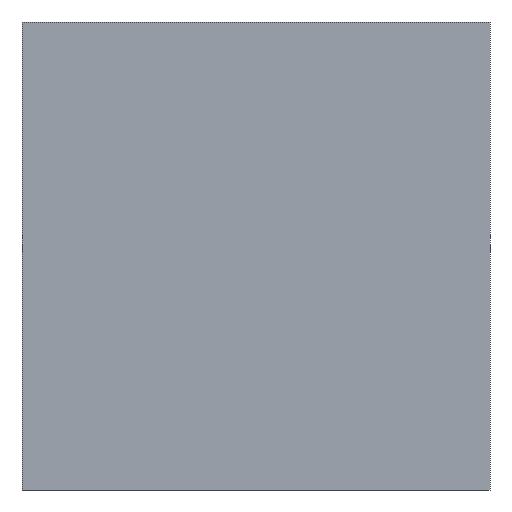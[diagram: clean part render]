
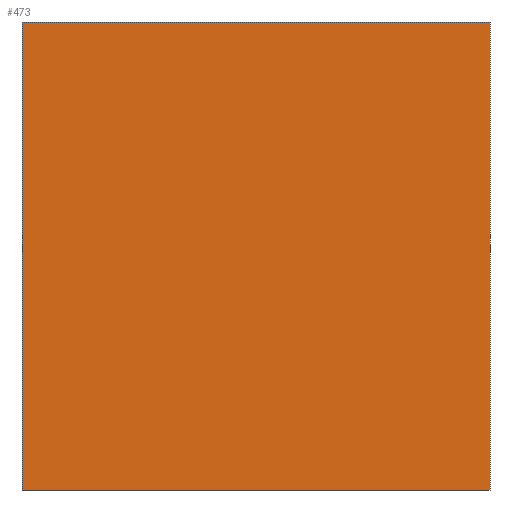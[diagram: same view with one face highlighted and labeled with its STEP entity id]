
A CAD part, front view. The second image highlights one B-rep face of the part: STEP entity #473.
In plain terms, the highlighted planar face has unit normal (0, -1, 0).
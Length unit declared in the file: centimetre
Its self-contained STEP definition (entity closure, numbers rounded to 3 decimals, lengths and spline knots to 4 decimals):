
#10 = LINE ( 'NONE', #268, #104 ) ;
#14 = LINE ( 'NONE', #381, #153 ) ;
#29 = EDGE_LOOP ( 'NONE', ( #139, #319, #91, #149 ) ) ;
#37 = CARTESIAN_POINT ( 'NONE',  ( 0., 0., 1000. ) ) ;
#45 = EDGE_CURVE ( 'NONE', #242, #113, #14, .T. ) ;
#69 = PLANE ( 'NONE',  #169 ) ;
#91 = ORIENTED_EDGE ( 'NONE', *, *, #192, .F. ) ;
#104 = VECTOR ( 'NONE', #233, 100. ) ;
#111 = DIRECTION ( 'NONE',  ( 0., 1., 0. ) ) ;
#113 = VERTEX_POINT ( 'NONE', #127 ) ;
#126 = DIRECTION ( 'NONE',  ( 1., 0., 0. ) ) ;
#127 = CARTESIAN_POINT ( 'NONE',  ( 0., 0., 0. ) ) ;
#139 = ORIENTED_EDGE ( 'NONE', *, *, #152, .T. ) ;
#145 = CARTESIAN_POINT ( 'NONE',  ( 1000., 0., 0. ) ) ;
#148 = LINE ( 'NONE', #284, #327 ) ;
#149 = ORIENTED_EDGE ( 'NONE', *, *, #45, .T. ) ;
#152 = EDGE_CURVE ( 'NONE', #113, #470, #10, .T. ) ;
#153 = VECTOR ( 'NONE', #301, 100. ) ;
#169 = AXIS2_PLACEMENT_3D ( 'NONE', #37, #111, #184 ) ;
#184 = DIRECTION ( 'NONE',  ( 0., 0., 1. ) ) ;
#192 = EDGE_CURVE ( 'NONE', #242, #216, #418, .T. ) ;
#207 = CARTESIAN_POINT ( 'NONE',  ( 0., 0., 1000. ) ) ;
#216 = VERTEX_POINT ( 'NONE', #226 ) ;
#224 = CARTESIAN_POINT ( 'NONE',  ( 0., 0., 1000. ) ) ;
#226 = CARTESIAN_POINT ( 'NONE',  ( 1000., 0., 1000. ) ) ;
#233 = DIRECTION ( 'NONE',  ( 1., 0., 0. ) ) ;
#242 = VERTEX_POINT ( 'NONE', #207 ) ;
#268 = CARTESIAN_POINT ( 'NONE',  ( 0., 0., 0. ) ) ;
#284 = CARTESIAN_POINT ( 'NONE',  ( 1000., 0., 1000. ) ) ;
#301 = DIRECTION ( 'NONE',  ( 0., 0., -1. ) ) ;
#319 = ORIENTED_EDGE ( 'NONE', *, *, #404, .F. ) ;
#327 = VECTOR ( 'NONE', #399, 100. ) ;
#367 = FACE_OUTER_BOUND ( 'NONE', #29, .T. ) ;
#381 = CARTESIAN_POINT ( 'NONE',  ( 0., 0., 1000. ) ) ;
#396 = VECTOR ( 'NONE', #126, 100. ) ;
#399 = DIRECTION ( 'NONE',  ( 0., 0., -1. ) ) ;
#404 = EDGE_CURVE ( 'NONE', #216, #470, #148, .T. ) ;
#418 = LINE ( 'NONE', #224, #396 ) ;
#470 = VERTEX_POINT ( 'NONE', #145 ) ;
#473 = ADVANCED_FACE ( 'NONE', ( #367 ), #69, .F. ) ;
